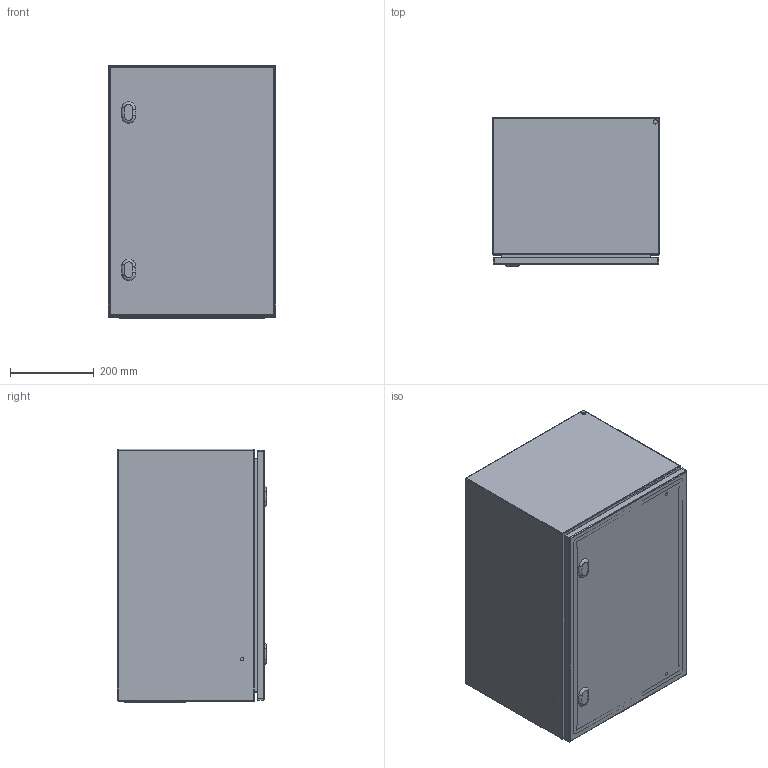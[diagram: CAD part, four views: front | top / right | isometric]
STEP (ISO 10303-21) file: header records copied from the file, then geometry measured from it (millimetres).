
FILE_DESCRIPTION(/* description */ ('STEP AP214'),/* implementation_level */ '2;1');
FILE_NAME(/* name */ 'EC040635-LOD400',/* time_stamp */ '2025-07-31T13:22:42+02:00',/* author */ ('License CC BY-ND 4.0'),/* organization */ ('CADENAS'),/* preprocessor_version */ 'ST-DEVELOPER v19.3',/* originating_system */ 'PARTsolutions',/* authorisation */ ' ');
FILE_SCHEMA (('AUTOMOTIVE_DESIGN {1 0 10303 214 3 1 1}'));
Length unit declared in the file: millimetre
Products named in the file (5): EC040635-LOD400; EC040635-LOD400_cabinet; EC040635-LOD400_door; EC040635-LOD400_bottom_plate; EC040635-LOD400_inner_plate
Assembly tree (4 placements, depth 2):
  EC040635-LOD400
    EC040635-LOD400_cabinet
    EC040635-LOD400_door
    EC040635-LOD400_bottom_plate
    EC040635-LOD400_inner_plate
Bounding box: 400 x 355 x 604 mm (x, y, z)
Volume: 2425539.8 mm3; surface area: 2960230.4 mm2
Topology: 4 solids, 4 shells, 522 faces, 1256 edges, 818 vertices
Faces by surface type: cylinder 220, plane 208, torus 48, cone 46
Full cylindrical faces by diameter (mm): 1 x48, 4.5 x46, 5 x4, 5.5 x4, 6 x4, 7 x4, 8 x12, 10 x10, 14 x4
Entity records: 14347 total; most frequent: DIRECTION 2638, CARTESIAN_POINT 2303, ORIENTED_EDGE 2028, AXIS2_PLACEMENT_3D 1097, EDGE_CURVE 1014, EDGE_LOOP 938, FACE_BOUND 938, VERTEX_POINT 762
